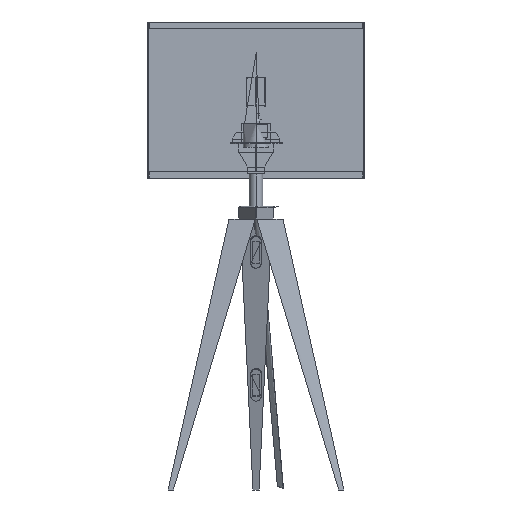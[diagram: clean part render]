
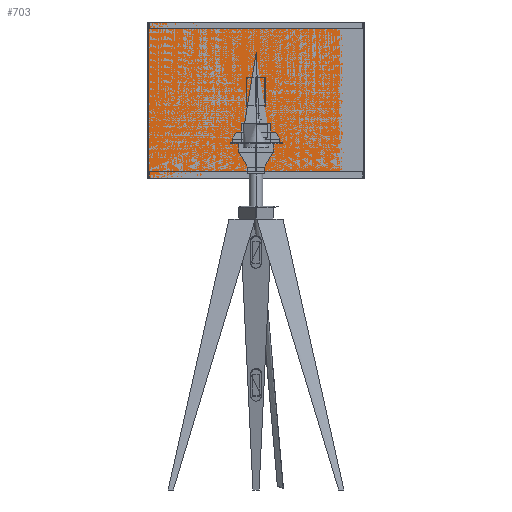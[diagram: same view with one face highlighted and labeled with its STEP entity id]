
A CAD part, front view. The second image highlights one B-rep face of the part: STEP entity #703.
In plain terms, the highlighted free-form (B-spline) face has degree [2, 1] with [5, 2] control points.
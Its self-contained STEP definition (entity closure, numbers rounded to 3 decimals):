
#703=ADVANCED_FACE('',(#1015),#4518,.T.);
#1015=FACE_OUTER_BOUND('',#1327,.T.);
#1327=EDGE_LOOP('',(#1653,#1654,#1655,#1656));
#1653=ORIENTED_EDGE('',*,*,#2965,.T.);
#1654=ORIENTED_EDGE('',*,*,#2961,.F.);
#1655=ORIENTED_EDGE('',*,*,#2960,.F.);
#1656=ORIENTED_EDGE('',*,*,#2959,.T.);
#2959=EDGE_CURVE('',#4050,#4054,#3620,.T.);
#2960=EDGE_CURVE('',#4050,#4051,#3621,.T.);
#2961=EDGE_CURVE('',#4051,#4055,#3622,.T.);
#2965=EDGE_CURVE('',#4054,#4055,#3626,.T.);
#3620=(
BOUNDED_CURVE()
B_SPLINE_CURVE(2,(#4964,#4965,#4966,#4967,#4968),.UNSPECIFIED.,.F.,.F.)
B_SPLINE_CURVE_WITH_KNOTS((3,2,3),(0.,196.35,392.699),
 .UNSPECIFIED.)
CURVE()
GEOMETRIC_REPRESENTATION_ITEM()
RATIONAL_B_SPLINE_CURVE((1.,0.707,1.,0.707,1.))
REPRESENTATION_ITEM('')
);
#3621=(
BOUNDED_CURVE()
B_SPLINE_CURVE(1,(#4969,#4970),.UNSPECIFIED.,.F.,.F.)
B_SPLINE_CURVE_WITH_KNOTS((2,2),(0.,180.),.UNSPECIFIED.)
CURVE()
GEOMETRIC_REPRESENTATION_ITEM()
RATIONAL_B_SPLINE_CURVE((1.,1.))
REPRESENTATION_ITEM('')
);
#3622=(
BOUNDED_CURVE()
B_SPLINE_CURVE(2,(#4971,#4972,#4973,#4974,#4975),.UNSPECIFIED.,.F.,.F.)
B_SPLINE_CURVE_WITH_KNOTS((3,2,3),(0.,196.35,392.699),
 .UNSPECIFIED.)
CURVE()
GEOMETRIC_REPRESENTATION_ITEM()
RATIONAL_B_SPLINE_CURVE((1.,0.707,1.,0.707,1.))
REPRESENTATION_ITEM('')
);
#3626=(
BOUNDED_CURVE()
B_SPLINE_CURVE(1,(#4988,#4989),.UNSPECIFIED.,.F.,.F.)
B_SPLINE_CURVE_WITH_KNOTS((2,2),(0.,180.),.UNSPECIFIED.)
CURVE()
GEOMETRIC_REPRESENTATION_ITEM()
RATIONAL_B_SPLINE_CURVE((1.,1.))
REPRESENTATION_ITEM('')
);
#4050=VERTEX_POINT('',#4956);
#4051=VERTEX_POINT('',#4957);
#4054=VERTEX_POINT('',#4960);
#4055=VERTEX_POINT('',#4961);
#4518=(
BOUNDED_SURFACE()
B_SPLINE_SURFACE(2,1,((#4914,#4915),(#4916,#4917),(#4918,#4919),(#4920,
#4921),(#4922,#4923)),.UNSPECIFIED.,.F.,.F.,.F.)
B_SPLINE_SURFACE_WITH_KNOTS((3,2,3),(2,2),(0.,196.35,392.699),
(0.,180.),.UNSPECIFIED.)
GEOMETRIC_REPRESENTATION_ITEM()
RATIONAL_B_SPLINE_SURFACE(((1.,1.),(0.707,0.707),
(1.,1.),(0.707,0.707),(1.,1.)))
REPRESENTATION_ITEM('')
SURFACE()
);
#4914=CARTESIAN_POINT('',(125.,0.,0.));
#4915=CARTESIAN_POINT('',(125.,0.,180.));
#4916=CARTESIAN_POINT('',(125.,125.,0.));
#4917=CARTESIAN_POINT('',(125.,125.,180.));
#4918=CARTESIAN_POINT('',(0.,125.,0.));
#4919=CARTESIAN_POINT('',(0.,125.,180.));
#4920=CARTESIAN_POINT('',(-125.,125.,0.));
#4921=CARTESIAN_POINT('',(-125.,125.,180.));
#4922=CARTESIAN_POINT('',(-125.,0.,0.));
#4923=CARTESIAN_POINT('',(-125.,0.,180.));
#4956=CARTESIAN_POINT('',(125.,0.,0.));
#4957=CARTESIAN_POINT('',(125.,0.,180.));
#4960=CARTESIAN_POINT('',(-125.,0.,0.));
#4961=CARTESIAN_POINT('',(-125.,0.,180.));
#4964=CARTESIAN_POINT('',(125.,0.,0.));
#4965=CARTESIAN_POINT('',(125.,125.,0.));
#4966=CARTESIAN_POINT('',(0.,125.,0.));
#4967=CARTESIAN_POINT('',(-125.,125.,0.));
#4968=CARTESIAN_POINT('',(-125.,0.,0.));
#4969=CARTESIAN_POINT('',(125.,0.,0.));
#4970=CARTESIAN_POINT('',(125.,0.,180.));
#4971=CARTESIAN_POINT('',(125.,0.,180.));
#4972=CARTESIAN_POINT('',(125.,125.,180.));
#4973=CARTESIAN_POINT('',(0.,125.,180.));
#4974=CARTESIAN_POINT('',(-125.,125.,180.));
#4975=CARTESIAN_POINT('',(-125.,0.,180.));
#4988=CARTESIAN_POINT('',(-125.,0.,0.));
#4989=CARTESIAN_POINT('',(-125.,0.,180.));
